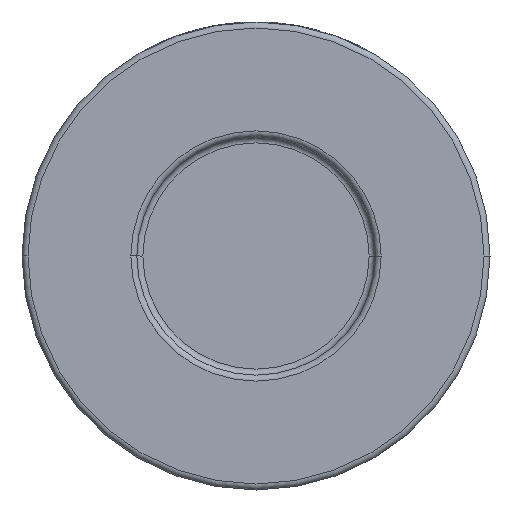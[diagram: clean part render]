
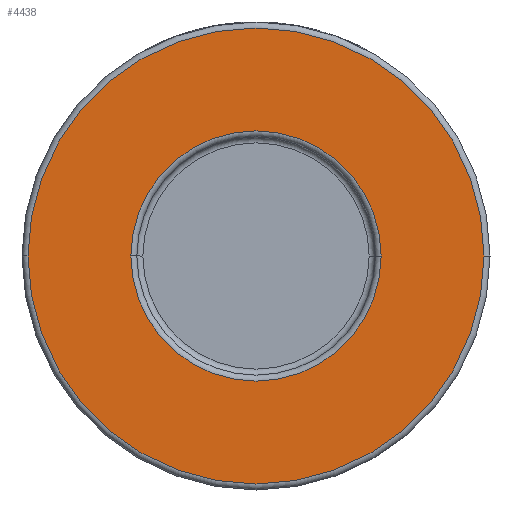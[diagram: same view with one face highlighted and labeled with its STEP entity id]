
A CAD part, front view. The second image highlights one B-rep face of the part: STEP entity #4438.
In plain terms, the highlighted planar face has unit normal (0, -1, 0).
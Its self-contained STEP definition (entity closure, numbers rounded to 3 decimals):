
#253 = DIRECTION ( 'NONE',  ( 1., 0., 0. ) ) ;
#451 = DIRECTION ( 'NONE',  ( 0., -1., 0. ) ) ;
#485 = ORIENTED_EDGE ( 'NONE', *, *, #2511, .T. ) ;
#543 = EDGE_CURVE ( 'NONE', #1466, #4335, #545, .T. ) ;
#545 = CIRCLE ( 'NONE', #4585, 38. ) ;
#662 = ORIENTED_EDGE ( 'NONE', *, *, #4324, .T. ) ;
#882 = CARTESIAN_POINT ( 'NONE',  ( 0., -29., 0. ) ) ;
#910 = DIRECTION ( 'NONE',  ( 0., 1., 0. ) ) ;
#1045 = DIRECTION ( 'NONE',  ( 1., 0., 0. ) ) ;
#1310 = ORIENTED_EDGE ( 'NONE', *, *, #543, .T. ) ;
#1466 = VERTEX_POINT ( 'NONE', #1757 ) ;
#1502 = DIRECTION ( 'NONE',  ( 1., 0., 0. ) ) ;
#1541 = EDGE_CURVE ( 'NONE', #1591, #2993, #3789, .T. ) ;
#1591 = VERTEX_POINT ( 'NONE', #4614 ) ;
#1751 = EDGE_LOOP ( 'NONE', ( #485, #1310 ) ) ;
#1757 = CARTESIAN_POINT ( 'NONE',  ( -38., -29., 0. ) ) ;
#1776 = CARTESIAN_POINT ( 'NONE',  ( -20.85, -29., 0. ) ) ;
#1881 = ORIENTED_EDGE ( 'NONE', *, *, #1541, .T. ) ;
#2071 = FACE_OUTER_BOUND ( 'NONE', #1751, .T. ) ;
#2398 = AXIS2_PLACEMENT_3D ( 'NONE', #2445, #2851, #1045 ) ;
#2445 = CARTESIAN_POINT ( 'NONE',  ( 39., -29., 0. ) ) ;
#2511 = EDGE_CURVE ( 'NONE', #4335, #1466, #4319, .T. ) ;
#2665 = DIRECTION ( 'NONE',  ( 0., -1., 0. ) ) ;
#2731 = DIRECTION ( 'NONE',  ( 1., 0., 0. ) ) ;
#2851 = DIRECTION ( 'NONE',  ( 0., -1., 0. ) ) ;
#2916 = CARTESIAN_POINT ( 'NONE',  ( 0., -29., 0. ) ) ;
#2993 = VERTEX_POINT ( 'NONE', #1776 ) ;
#3379 = AXIS2_PLACEMENT_3D ( 'NONE', #3488, #910, #253 ) ;
#3453 = CIRCLE ( 'NONE', #3379, 20.85 ) ;
#3488 = CARTESIAN_POINT ( 'NONE',  ( 0., -29., 0. ) ) ;
#3500 = AXIS2_PLACEMENT_3D ( 'NONE', #882, #2665, #2731 ) ;
#3731 = EDGE_LOOP ( 'NONE', ( #1881, #662 ) ) ;
#3789 = CIRCLE ( 'NONE', #4606, 20.85 ) ;
#3847 = DIRECTION ( 'NONE',  ( 1., 0., 0. ) ) ;
#3909 = DIRECTION ( 'NONE',  ( 0., 1., 0. ) ) ;
#4146 = CARTESIAN_POINT ( 'NONE',  ( 38., -29., 0. ) ) ;
#4234 = PLANE ( 'NONE',  #2398 ) ;
#4256 = FACE_BOUND ( 'NONE', #3731, .T. ) ;
#4319 = CIRCLE ( 'NONE', #3500, 38. ) ;
#4324 = EDGE_CURVE ( 'NONE', #2993, #1591, #3453, .T. ) ;
#4335 = VERTEX_POINT ( 'NONE', #4146 ) ;
#4438 = ADVANCED_FACE ( 'NONE', ( #4256, #2071 ), #4234, .T. ) ;
#4585 = AXIS2_PLACEMENT_3D ( 'NONE', #2916, #451, #1502 ) ;
#4592 = CARTESIAN_POINT ( 'NONE',  ( 0., -29., 0. ) ) ;
#4606 = AXIS2_PLACEMENT_3D ( 'NONE', #4592, #3909, #3847 ) ;
#4614 = CARTESIAN_POINT ( 'NONE',  ( 20.85, -29., 0. ) ) ;
